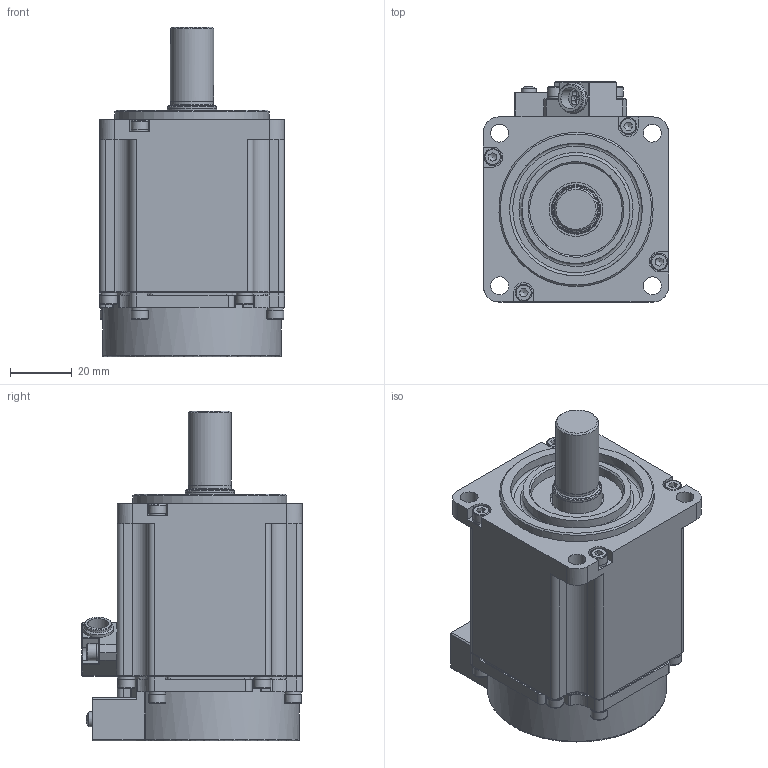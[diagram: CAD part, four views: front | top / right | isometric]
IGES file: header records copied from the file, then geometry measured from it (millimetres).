
Global section: file name: SMP-L0201; native system: Autodesk Inventor 2014; preprocessor: unknown; author: Mejust; date: 20170930.142721; units: millimetre
Bounding box: 60 x 71.5 x 107 mm (x, y, z)
Volume: 267613.7 mm3; surface area: 44622 mm2
Topology: 3 solids, 47 shells, 902 faces, 2554 edges, 1831 vertices
Faces by surface type: bspline 854, revolution 40, plane 8
